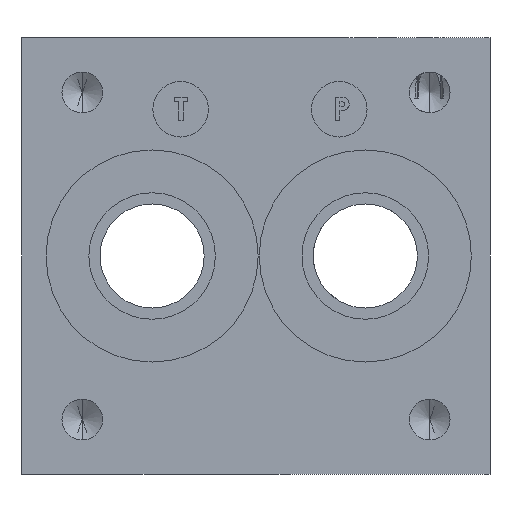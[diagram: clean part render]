
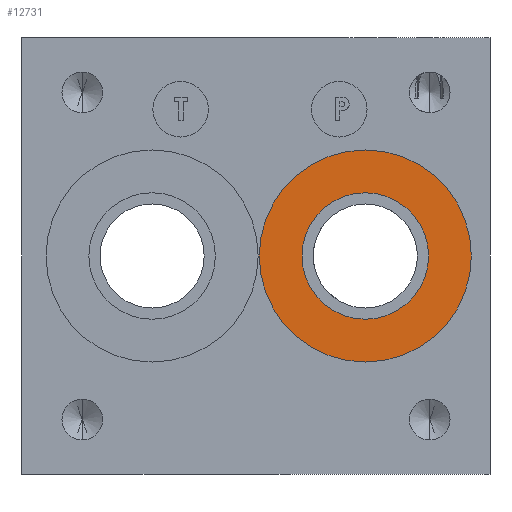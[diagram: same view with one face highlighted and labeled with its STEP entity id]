
A CAD part, left-side view. The second image highlights one B-rep face of the part: STEP entity #12731.
In plain terms, the highlighted planar face has unit normal (-1, 0, 0).
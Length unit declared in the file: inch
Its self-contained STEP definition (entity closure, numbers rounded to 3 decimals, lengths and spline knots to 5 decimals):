
#142 = AXIS2_PLACEMENT_3D ( 'NONE', #12641, #12605, #12602 ) ;
#354 = DIRECTION ( 'NONE',  ( 0., 0., -1. ) ) ;
#571 = CIRCLE ( 'NONE', #1476, 0.6684 ) ;
#915 = AXIS2_PLACEMENT_3D ( 'NONE', #5659, #5633, #5635 ) ;
#984 = FACE_BOUND ( 'NONE', #3962, .T. ) ;
#1476 = AXIS2_PLACEMENT_3D ( 'NONE', #7680, #7540, #9000 ) ;
#1834 = ORIENTED_EDGE ( 'NONE', *, *, #4308, .T. ) ;
#1877 = VERTEX_POINT ( 'NONE', #7465 ) ;
#1970 = AXIS2_PLACEMENT_3D ( 'NONE', #11257, #6288, #354 ) ;
#1972 = CIRCLE ( 'NONE', #142, 0.6684 ) ;
#2092 = DIRECTION ( 'NONE',  ( -1., 0., 0. ) ) ;
#2204 = VERTEX_POINT ( 'NONE', #7136 ) ;
#2281 = EDGE_CURVE ( 'NONE', #3293, #2500, #571, .T. ) ;
#2466 = EDGE_CURVE ( 'NONE', #2204, #1877, #12219, .T. ) ;
#2500 = VERTEX_POINT ( 'NONE', #6193 ) ;
#3293 = VERTEX_POINT ( 'NONE', #4408 ) ;
#3962 = EDGE_LOOP ( 'NONE', ( #8000, #4920 ) ) ;
#3977 = EDGE_LOOP ( 'NONE', ( #7486, #1834 ) ) ;
#4308 = EDGE_CURVE ( 'NONE', #2500, #3293, #1972, .T. ) ;
#4408 = CARTESIAN_POINT ( 'NONE',  ( 0.031, 0.786, 2.0434 ) ) ;
#4920 = ORIENTED_EDGE ( 'NONE', *, *, #2466, .F. ) ;
#5633 = DIRECTION ( 'NONE',  ( -1., 0., 0. ) ) ;
#5635 = DIRECTION ( 'NONE',  ( 0., 0., 1. ) ) ;
#5659 = CARTESIAN_POINT ( 'NONE',  ( 0.031, 0.786, 1.375 ) ) ;
#6193 = CARTESIAN_POINT ( 'NONE',  ( 0.031, 0.786, 0.7066 ) ) ;
#6288 = DIRECTION ( 'NONE',  ( 1., 0., 0. ) ) ;
#6914 = AXIS2_PLACEMENT_3D ( 'NONE', #7954, #2092, #8970 ) ;
#7136 = CARTESIAN_POINT ( 'NONE',  ( 0.031, 0.786, 0.97615 ) ) ;
#7259 = PLANE ( 'NONE',  #1970 ) ;
#7465 = CARTESIAN_POINT ( 'NONE',  ( 0.031, 0.786, 1.77385 ) ) ;
#7486 = ORIENTED_EDGE ( 'NONE', *, *, #2281, .T. ) ;
#7540 = DIRECTION ( 'NONE',  ( -1., 0., 0. ) ) ;
#7680 = CARTESIAN_POINT ( 'NONE',  ( 0.031, 0.786, 1.375 ) ) ;
#7954 = CARTESIAN_POINT ( 'NONE',  ( 0.031, 0.786, 1.375 ) ) ;
#8000 = ORIENTED_EDGE ( 'NONE', *, *, #11868, .F. ) ;
#8970 = DIRECTION ( 'NONE',  ( 0., 0., 1. ) ) ;
#9000 = DIRECTION ( 'NONE',  ( 0., 0., 1. ) ) ;
#10924 = FACE_OUTER_BOUND ( 'NONE', #3977, .T. ) ;
#11257 = CARTESIAN_POINT ( 'NONE',  ( 0.031, 0.786, 1.375 ) ) ;
#11868 = EDGE_CURVE ( 'NONE', #1877, #2204, #12307, .T. ) ;
#12219 = CIRCLE ( 'NONE', #915, 0.39885 ) ;
#12307 = CIRCLE ( 'NONE', #6914, 0.39885 ) ;
#12602 = DIRECTION ( 'NONE',  ( 0., 0., 1. ) ) ;
#12605 = DIRECTION ( 'NONE',  ( -1., 0., 0. ) ) ;
#12641 = CARTESIAN_POINT ( 'NONE',  ( 0.031, 0.786, 1.375 ) ) ;
#12731 = ADVANCED_FACE ( 'NONE', ( #984, #10924 ), #7259, .F. ) ;
